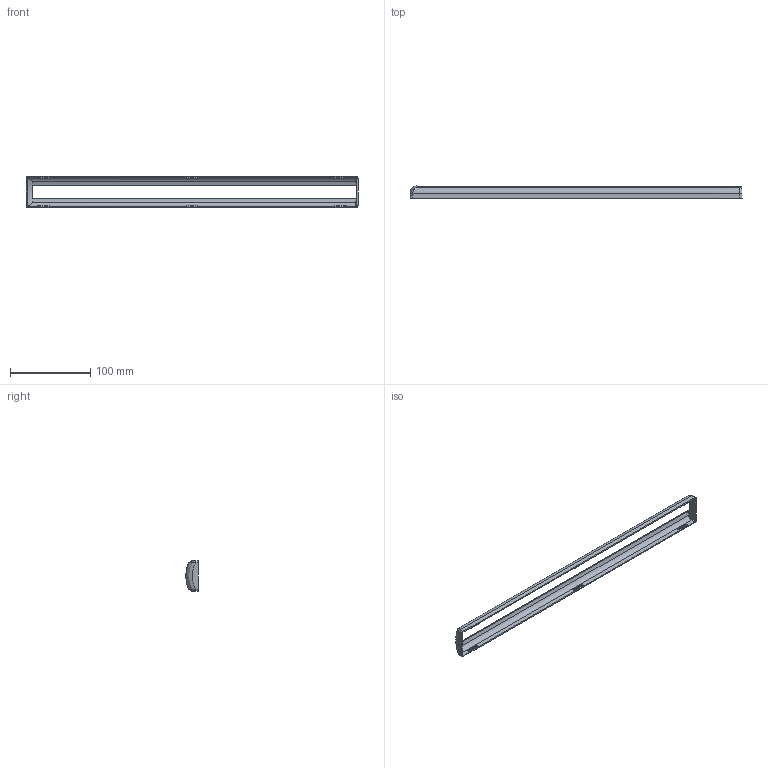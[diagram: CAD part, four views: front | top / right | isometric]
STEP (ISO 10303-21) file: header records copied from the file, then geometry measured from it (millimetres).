
FILE_DESCRIPTION((''),'2;1');
FILE_NAME('238509','2022-07-15T07:58:19',('1ke04'),('Kesseboehmer'),'CREO PARAMETRIC BY PTC INC, 2020184','CREO PARAMETRIC BY PTC INC, 2020184','');
FILE_SCHEMA(('AUTOMOTIVE_DESIGN { 1 0 10303 214 1 1 1 1 }'));
Length unit declared in the file: millimetre
Products named in the file (1): 238509
Bounding box: 414 x 15.47 x 38.5 mm (x, y, z)
Volume: 25668.9 mm3; surface area: 36899.9 mm2
Topology: 1 solids, 1 shells, 315 faces, 839 edges, 524 vertices
Faces by surface type: plane 160, cylinder 130, bspline 25
Entity records: 11657 total; most frequent: CARTESIAN_POINT 3818, ORIENTED_EDGE 1678, DIRECTION 1285, EDGE_CURVE 839, VECTOR 546, LINE 546, VERTEX_POINT 524, AXIS2_PLACEMENT_3D 368
